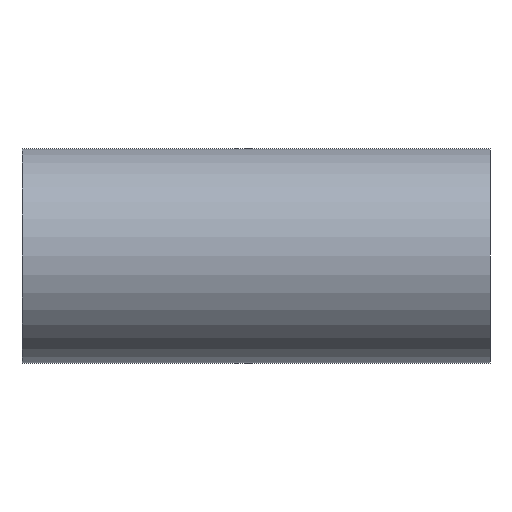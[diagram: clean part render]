
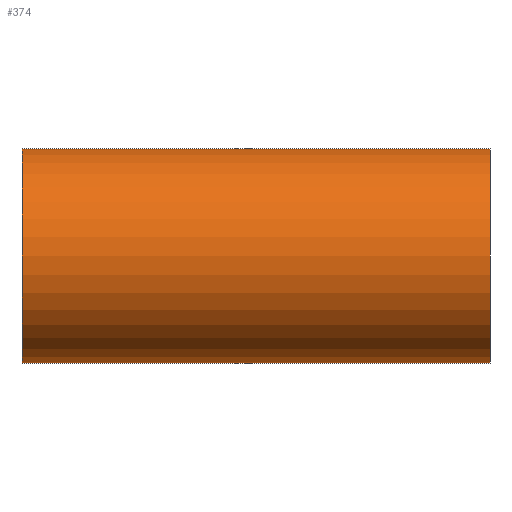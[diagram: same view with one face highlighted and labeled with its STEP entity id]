
A CAD part, front view. The second image highlights one B-rep face of the part: STEP entity #374.
In plain terms, the highlighted cylindrical face has radius 50.8 mm (diameter 101.6 mm), a partial arc.
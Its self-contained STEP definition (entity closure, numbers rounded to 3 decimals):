
#5 = VERTEX_POINT ( 'NONE', #77 ) ;
#9 = CYLINDRICAL_SURFACE ( 'NONE', #493, 50.8 ) ;
#10 = EDGE_CURVE ( 'NONE', #85, #5, #429, .T. ) ;
#18 = LINE ( 'NONE', #486, #520 ) ;
#21 = CARTESIAN_POINT ( 'NONE',  ( -110.7, 0., 0. ) ) ;
#32 = VERTEX_POINT ( 'NONE', #80 ) ;
#40 = DIRECTION ( 'NONE',  ( -1., 0., 0. ) ) ;
#61 = EDGE_CURVE ( 'NONE', #32, #85, #18, .T. ) ;
#77 = CARTESIAN_POINT ( 'NONE',  ( -110.7, 0., -50.8 ) ) ;
#80 = CARTESIAN_POINT ( 'NONE',  ( 110.7, 0., 50.8 ) ) ;
#85 = VERTEX_POINT ( 'NONE', #237 ) ;
#88 = DIRECTION ( 'NONE',  ( 1., 0., 0. ) ) ;
#91 = DIRECTION ( 'NONE',  ( 0., 0., 1. ) ) ;
#92 = EDGE_CURVE ( 'NONE', #319, #32, #412, .T. ) ;
#110 = AXIS2_PLACEMENT_3D ( 'NONE', #21, #88, #91 ) ;
#152 = CARTESIAN_POINT ( 'NONE',  ( 254.384, 0., -50.8 ) ) ;
#156 = FACE_OUTER_BOUND ( 'NONE', #463, .T. ) ;
#177 = ORIENTED_EDGE ( 'NONE', *, *, #92, .T. ) ;
#237 = CARTESIAN_POINT ( 'NONE',  ( -110.7, 0., 50.8 ) ) ;
#255 = CARTESIAN_POINT ( 'NONE',  ( 110.7, 0., -50.8 ) ) ;
#261 = CARTESIAN_POINT ( 'NONE',  ( 110.7, 0., 0. ) ) ;
#274 = VECTOR ( 'NONE', #304, 1000. ) ;
#298 = DIRECTION ( 'NONE',  ( -1., 0., 0. ) ) ;
#303 = DIRECTION ( 'NONE',  ( 0., 0., 1. ) ) ;
#304 = DIRECTION ( 'NONE',  ( -1., 0., 0. ) ) ;
#319 = VERTEX_POINT ( 'NONE', #255 ) ;
#346 = DIRECTION ( 'NONE',  ( -1., 0., 0. ) ) ;
#374 = ADVANCED_FACE ( 'NONE', ( #156 ), #9, .T. ) ;
#377 = ORIENTED_EDGE ( 'NONE', *, *, #393, .F. ) ;
#393 = EDGE_CURVE ( 'NONE', #319, #5, #403, .T. ) ;
#403 = LINE ( 'NONE', #152, #274 ) ;
#412 = CIRCLE ( 'NONE', #448, 50.8 ) ;
#429 = CIRCLE ( 'NONE', #110, 50.8 ) ;
#448 = AXIS2_PLACEMENT_3D ( 'NONE', #261, #298, #303 ) ;
#463 = EDGE_LOOP ( 'NONE', ( #377, #177, #531, #468 ) ) ;
#468 = ORIENTED_EDGE ( 'NONE', *, *, #10, .T. ) ;
#486 = CARTESIAN_POINT ( 'NONE',  ( 254.384, 0., 50.8 ) ) ;
#493 = AXIS2_PLACEMENT_3D ( 'NONE', #627, #40, #584 ) ;
#520 = VECTOR ( 'NONE', #346, 1000. ) ;
#531 = ORIENTED_EDGE ( 'NONE', *, *, #61, .T. ) ;
#584 = DIRECTION ( 'NONE',  ( 0., 0., 1. ) ) ;
#627 = CARTESIAN_POINT ( 'NONE',  ( 254.384, 0., 0. ) ) ;
